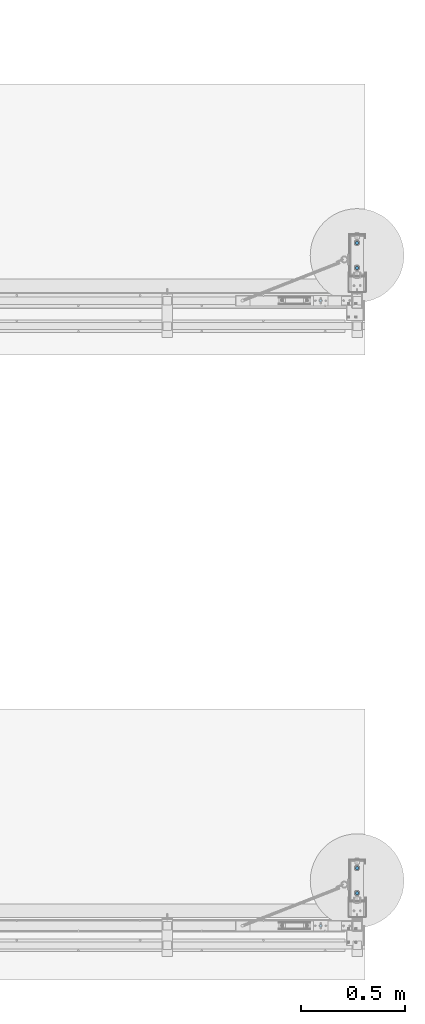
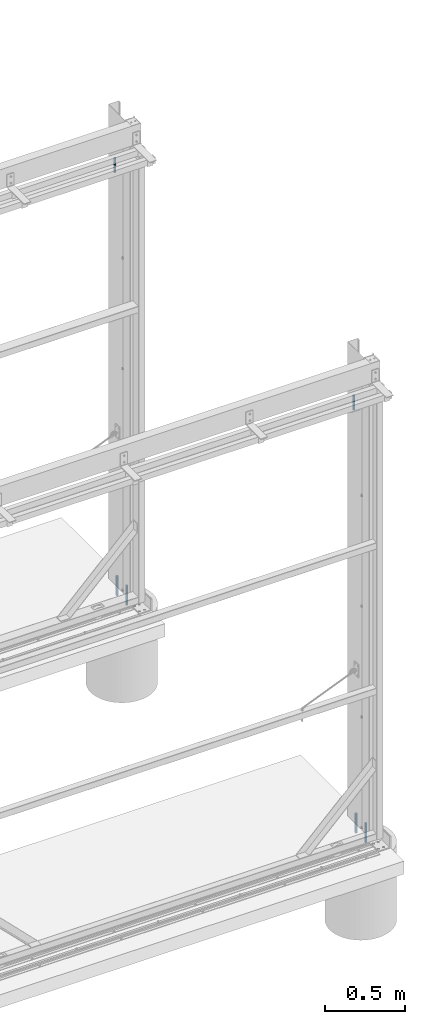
# One storey, part 6 of 91: 6 columns, 6 elements without a shape of their own.
"""IFC2X3 building model written with IfcOpenShell, lengths in millimetres."""

import ifcopenshell
import ifcopenshell.guid

model = None  # the IFC model being written
_history = None  # IfcOwnerHistory: only IFC2X3 demands one
_inside = {}  # id of a spatial element -> (the spatial element, [elements in it])
_under = {}  # id of a project, library or spatial element -> (it, [spatial elements below it])
_declared = {}  # id of a project -> (the project, [libraries it declares])
_typed = {}  # id of a type object -> (the type object, [elements of that type])
_made_of = {}  # id of a material, layer set ... -> (it, [elements and type objects made of it])


def new_model(schema):
    """Start an empty IFC model of exactly this schema.

    Asked for "IFC4X3", IfcOpenShell would pick the latest addendum, in which some entities
    have other attributes; the version numbers below select the first issue.
    IFC2X3 requires an IfcOwnerHistory on every rooted entity: one is made here for all.
    """
    global model, _history
    if schema == "IFC4X3":
        model = ifcopenshell.file(schema_version=(4, 3, 0, 0))
    else:
        model = ifcopenshell.file(schema=schema)
    _inside.clear()
    _under.clear()
    _declared.clear()
    _typed.clear()
    _made_of.clear()
    _history = None
    if model.schema == "IFC2X3":
        org = make("IfcOrganization", Name="unknown")
        user = make(
            "IfcPersonAndOrganization",
            ThePerson=make("IfcPerson", FamilyName="unknown"),
            TheOrganization=org,
        )
        app = make(
            "IfcApplication",
            ApplicationDeveloper=org,
            Version="unknown",
            ApplicationFullName="unknown",
            ApplicationIdentifier="unknown",
        )
        _history = make(
            "IfcOwnerHistory",
            OwningUser=user,
            OwningApplication=app,
            ChangeAction="ADDED",
            CreationDate=0,
        )
    return model


def make(cls, **values):
    """One entity of the class cls with the attributes given. An attribute that is None is left unset."""
    return model.create_entity(
        cls, **{name: value for name, value in values.items() if value is not None}
    )


def rooted(cls, **values):
    """An entity with a GlobalId (a new one), such as an element, a storey or a relation."""
    return make(cls, GlobalId=ifcopenshell.guid.new(), OwnerHistory=_history, **values)


def si_unit(unit_type, name, prefix=None):
    """IfcSIUnit, for example si_unit("LENGTHUNIT", "METRE", prefix="MILLI")."""
    return make("IfcSIUnit", UnitType=unit_type, Prefix=prefix, Name=name)


def assignment(units):
    """IfcUnitAssignment: the units of a project."""
    return None if units is None else make("IfcUnitAssignment", Units=units)


def point(xyz):
    """IfcCartesianPoint."""
    return None if xyz is None else make("IfcCartesianPoint", Coordinates=xyz)


def direction(xyz):
    """IfcDirection."""
    return None if xyz is None else make("IfcDirection", DirectionRatios=xyz)


def frame(location, z_axis=None, x_axis=None):
    """IfcAxis2Placement3D, a coordinate frame: its origin and axes. An axis left out is left unset."""
    return make(
        "IfcAxis2Placement3D",
        Location=point(location),
        Axis=direction(z_axis),
        RefDirection=direction(x_axis),
    )


def frame_2d(location, x_axis=None):
    """IfcAxis2Placement2D, a coordinate frame in the plane: its origin and x axis."""
    return make(
        "IfcAxis2Placement2D", Location=point(location), RefDirection=direction(x_axis)
    )


def origin_with_axes():
    """The frame at (0, 0, 0) with the z axis (0, 0, 1) and the x axis (1, 0, 0) written out."""
    return frame((0.0, 0.0, 0.0), z_axis=(0.0, 0.0, 1.0), x_axis=(1.0, 0.0, 0.0))


def origin_2d_with_axis():
    """The frame at (0, 0) in the plane with the x axis (1, 0) written out."""
    return frame_2d((0.0, 0.0), x_axis=(1.0, 0.0))


def place(relative_to, where):
    """IfcLocalPlacement: puts the frame where relative to a parent placement (None: the world)."""
    return make(
        "IfcLocalPlacement", PlacementRelTo=relative_to, RelativePlacement=where
    )


def context(
    kind, dimensions, precision=None, world=None, true_north=None, identifier=None
):
    """IfcGeometricRepresentationContext, for example the 3D "Model" context."""
    return make(
        "IfcGeometricRepresentationContext",
        ContextIdentifier=identifier,
        ContextType=kind,
        CoordinateSpaceDimension=dimensions,
        Precision=precision,
        WorldCoordinateSystem=world,
        TrueNorth=true_north,
    )


def subcontext(parent, identifier, kind, view, scale=None):
    """IfcGeometricRepresentationSubContext, for example "Body" below "Model"."""
    return make(
        "IfcGeometricRepresentationSubContext",
        ContextIdentifier=identifier,
        ContextType=kind,
        ParentContext=parent,
        TargetScale=scale,
        TargetView=view,
    )


def project(units=None, contexts=None):
    """IfcProject with its units and contexts."""
    return rooted(
        "IfcProject",
        Name="project",
        RepresentationContexts=contexts,
        UnitsInContext=assignment(units),
    )


def spatial(cls, under=None, at=None, **own):
    """A site, building, storey or space (cls), placed at a placement, below another one or the project."""
    s = rooted(cls, ObjectPlacement=at, **own)
    if under is not None:
        _under.setdefault(under.id(), (under, []))[1].append(s)
    return s


def profile(cls, at=None, kind="AREA", **sizes):
    """A parametric profile (cls). Its sizes go by their IFC names, for example OverallWidth=200.0."""
    return make(cls, ProfileType=kind, Position=at, **sizes)


def circle(**sizes):
    """IfcCircleProfileDef."""
    return profile("IfcCircleProfileDef", **sizes)


def extrude(swept, where, along, depth):
    """IfcExtrudedAreaSolid: the profile swept, set in the frame where, extruded along a direction by depth."""
    return make(
        "IfcExtrudedAreaSolid",
        SweptArea=swept,
        Position=where,
        ExtrudedDirection=direction(along),
        Depth=depth,
    )


def boolean(op, a, b):
    """IfcBooleanResult of two solids."""
    return make("IfcBooleanResult", Operator=op, FirstOperand=a, SecondOperand=b)


def shape(context_of_items, identifier, shape_type, items):
    """IfcShapeRepresentation: the items that make up one representation, for example the "Body"."""
    return make(
        "IfcShapeRepresentation",
        ContextOfItems=context_of_items,
        RepresentationIdentifier=identifier,
        RepresentationType=shape_type,
        Items=items,
    )


def material(Name=None, Category=None):
    """IfcMaterial."""
    return make("IfcMaterial", Name=Name, Category=Category)


def made_of(thing, what):
    """Note that an element or type object is made of a material, layer set ...; save() writes the relation."""
    if what is not None:
        _made_of.setdefault(what.id(), (what, []))[1].append(thing)
    return thing


def type_object(cls, material=None, **own):
    """A type object (cls), such as IfcWallType, which elements share."""
    return made_of(rooted(cls, **own), material)


def element(
    cls,
    number,
    at=None,
    inside=None,
    cuts=None,
    type_object=None,
    material=None,
    context=None,
    identifier="Body",
    shape_type=None,
    held_by="IfcProductDefinitionShape",
    body=None,
    shapes=None,
    **own,
):
    """One element of the class cls, such as IfcWall. Its Tag is "e" and its number.

    at: its placement. inside: the storey or other place that contains it. cuts: it is an
    opening in that element (IfcRelVoidsElement). A single representation is given by context,
    identifier, shape_type and body (its items); several are given by shapes. held_by: the class
    of the entity that holds the representations. save() writes the other relations.
    """
    e = rooted(cls, Tag="e%d" % number, ObjectPlacement=at, **own)
    if body is not None:
        shapes = [shape(context, identifier, shape_type, body)]
    if shapes is not None:
        e.Representation = make(held_by, Representations=shapes)
    if inside is not None:
        _inside.setdefault(inside.id(), (inside, []))[1].append(e)
    if cuts is not None:
        rooted(
            "IfcRelVoidsElement", RelatingBuildingElement=cuts, RelatedOpeningElement=e
        )
    if type_object is not None:
        _typed.setdefault(type_object.id(), (type_object, []))[1].append(e)
    return made_of(e, material)


def aggregate(whole, parts):
    """IfcRelAggregates: a whole, such as a stair, and the parts it consists of."""
    return rooted("IfcRelAggregates", RelatingObject=whole, RelatedObjects=parts)


def save(model, path):
    """Write the relations noted so far, then the file.

    IfcRelAggregates (storeys below a building ...), IfcRelContainedInSpatialStructure (elements
    in a storey), IfcRelDefinesByType, IfcRelAssociatesMaterial and IfcRelDeclares: one each for
    every whole, place, type object, material and project.
    """
    for whole, parts in _under.values():
        aggregate(whole, parts)
    for where, things in _inside.values():
        rooted(
            "IfcRelContainedInSpatialStructure",
            RelatedElements=things,
            RelatingStructure=where,
        )
    for kind, things in _typed.values():
        rooted("IfcRelDefinesByType", RelatedObjects=things, RelatingType=kind)
    for what, things in _made_of.values():
        rooted("IfcRelAssociatesMaterial", RelatedObjects=things, RelatingMaterial=what)
    for by, libraries in _declared.values():
        rooted("IfcRelDeclares", RelatingContext=by, RelatedDefinitions=libraries)
    model.write(path)


model = new_model("IFC2X3")

# Units and contexts
model_context = context("Model", 3, precision=1e-05, world=origin_with_axes())
body_context = subcontext(model_context, "Body", "Model", "MODEL_VIEW")
ifc_project = project(units=[si_unit("LENGTHUNIT", "METRE", prefix="MILLI"), si_unit("AREAUNIT", "SQUARE_METRE"), si_unit("VOLUMEUNIT", "CUBIC_METRE"), si_unit("MASSUNIT", "GRAM", prefix="KILO"), si_unit("TIMEUNIT", "SECOND"), si_unit("PLANEANGLEUNIT", "RADIAN"), si_unit("SOLIDANGLEUNIT", "STERADIAN"), si_unit("THERMODYNAMICTEMPERATUREUNIT", "DEGREE_CELSIUS"), si_unit("LUMINOUSINTENSITYUNIT", "LUMEN")], contexts=[model_context])

# Site, building, storey
site_placement = place(None, origin_with_axes())
site = spatial("IfcSite", under=ifc_project, at=site_placement, Name="Undefined", CompositionType="ELEMENT")
building_placement = place(site_placement, origin_with_axes())
building = spatial("IfcBuilding", under=site, at=building_placement, Name="Undefined", CompositionType="ELEMENT")
storey_placement = place(building_placement, origin_with_axes())
storey = spatial("IfcBuildingStorey", under=building, at=storey_placement, Name="Undefined", CompositionType="ELEMENT", Elevation=0.0)

# Assembly, column
assembly_1_placement = place(storey_placement, origin_with_axes())
assembly_1 = element("IfcElementAssembly", 1, at=assembly_1_placement, inside=storey, Name="ROD", AssemblyPlace="NOTDEFINED", PredefinedType="RIGID_FRAME")
ifc_material_1 = material(Name="STEEL/250")
column_type_1 = type_object("IfcColumnType", Name="D12", PredefinedType="NOTDEFINED")
column_1_placement = place(assembly_1_placement, frame((-107858.34, 87712.15, 3320.0), z_axis=(0.0, 0.0, 1.0), x_axis=(1.0, 0.0, 0.0)))
column_1 = element("IfcColumn", 2, at=column_1_placement, type_object=column_type_1, material=ifc_material_1, Name="ROD", ObjectType="D12", context=body_context, shape_type="CSG", body=[
    boolean("DIFFERENCE", extrude(circle(Radius=6.0, at=origin_2d_with_axis()), frame((0.0, 0.0, 110.0), z_axis=(0.0, 0.0, -1.0), x_axis=(0.0, 1.0, 0.0)), (0.0, 0.0, 1.0), 110.0), extrude(circle(Radius=3.5, at=origin_2d_with_axis()), frame((0.0, 15.0, 101.0), z_axis=(0.0, -1.0, 0.0), x_axis=(0.0, 0.0, -1.0)), (0.0, 0.0, 1.0), 30.0)),
])
aggregate(assembly_1, [column_1])

assembly_2_placement = place(storey_placement, origin_with_axes())
assembly_2 = element("IfcElementAssembly", 3, at=assembly_2_placement, inside=storey, Name="ROD", AssemblyPlace="NOTDEFINED", PredefinedType="RIGID_FRAME")
column_2_placement = place(assembly_2_placement, frame((-107858.34, 84712.15, 3320.0), z_axis=(0.0, 0.0, 1.0), x_axis=(1.0, 0.0, 0.0)))
column_2 = element("IfcColumn", 4, at=column_2_placement, type_object=column_type_1, material=ifc_material_1, Name="ROD", ObjectType="D12", context=body_context, shape_type="CSG", body=[
    boolean("DIFFERENCE", extrude(circle(Radius=6.0, at=origin_2d_with_axis()), frame((0.0, 0.0, 110.0), z_axis=(0.0, 0.0, -1.0), x_axis=(0.0, 1.0, 0.0)), (0.0, 0.0, 1.0), 110.0), extrude(circle(Radius=3.5, at=origin_2d_with_axis()), frame((0.0, 15.0, 101.0), z_axis=(0.0, -1.0, 0.0), x_axis=(0.0, 0.0, -1.0)), (0.0, 0.0, 1.0), 30.0)),
])
aggregate(assembly_2, [column_2])

assembly_3_placement = place(storey_placement, origin_with_axes())
assembly_3 = element("IfcElementAssembly", 5, at=assembly_3_placement, inside=storey, Name="THROUGH BOLTS", AssemblyPlace="NOTDEFINED", PredefinedType="RIGID_FRAME")
ifc_material_2 = material(Name="STEEL/300")
column_type_2 = type_object("IfcColumnType", Name="D16", PredefinedType="NOTDEFINED")
column_3_placement = place(assembly_3_placement, frame((-107683.34, 87868.65, -151.0), z_axis=(0.0, 0.0, 1.0), x_axis=(0.0, 1.0, 0.0)))
column_3 = element("IfcColumn", 6, at=column_3_placement, type_object=column_type_2, material=ifc_material_2, Name="THROUGH BOLTS", ObjectType="D16", context=body_context, shape_type="SweptSolid", body=[
    extrude(circle(Radius=8.0, at=origin_2d_with_axis()), frame((0.0, 0.0, 150.0), z_axis=(0.0, 0.0, -1.0), x_axis=(0.0, 1.0, 0.0)), (0.0, 0.0, 1.0), 150.0),
])
aggregate(assembly_3, [column_3])

assembly_4_placement = place(storey_placement, origin_with_axes())
assembly_4 = element("IfcElementAssembly", 7, at=assembly_4_placement, inside=storey, Name="THROUGH BOLTS", AssemblyPlace="NOTDEFINED", PredefinedType="RIGID_FRAME")
column_4_placement = place(assembly_4_placement, frame((-107683.34, 87988.65, -151.0), z_axis=(0.0, 0.0, 1.0), x_axis=(0.0, 1.0, 0.0)))
column_4 = element("IfcColumn", 8, at=column_4_placement, type_object=column_type_2, material=ifc_material_2, Name="THROUGH BOLTS", ObjectType="D16", context=body_context, shape_type="SweptSolid", body=[
    extrude(circle(Radius=8.0, at=origin_2d_with_axis()), frame((0.0, 0.0, 150.0), z_axis=(0.0, 0.0, -1.0), x_axis=(0.0, 1.0, 0.0)), (0.0, 0.0, 1.0), 150.0),
])
aggregate(assembly_4, [column_4])

assembly_5_placement = place(storey_placement, origin_with_axes())
assembly_5 = element("IfcElementAssembly", 9, at=assembly_5_placement, inside=storey, Name="THROUGH BOLTS", AssemblyPlace="NOTDEFINED", PredefinedType="RIGID_FRAME")
column_5_placement = place(assembly_5_placement, frame((-107683.34, 84868.65, -151.0), z_axis=(0.0, 0.0, 1.0), x_axis=(0.0, 1.0, 0.0)))
column_5 = element("IfcColumn", 10, at=column_5_placement, type_object=column_type_2, material=ifc_material_2, Name="THROUGH BOLTS", ObjectType="D16", context=body_context, shape_type="SweptSolid", body=[
    extrude(circle(Radius=8.0, at=origin_2d_with_axis()), frame((0.0, 0.0, 150.0), z_axis=(0.0, 0.0, -1.0), x_axis=(0.0, 1.0, 0.0)), (0.0, 0.0, 1.0), 150.0),
])
aggregate(assembly_5, [column_5])

assembly_6_placement = place(storey_placement, origin_with_axes())
assembly_6 = element("IfcElementAssembly", 11, at=assembly_6_placement, inside=storey, Name="THROUGH BOLTS", AssemblyPlace="NOTDEFINED", PredefinedType="RIGID_FRAME")
column_6_placement = place(assembly_6_placement, frame((-107683.34, 84988.65, -151.0), z_axis=(0.0, 0.0, 1.0), x_axis=(0.0, 1.0, 0.0)))
column_6 = element("IfcColumn", 12, at=column_6_placement, type_object=column_type_2, material=ifc_material_2, Name="THROUGH BOLTS", ObjectType="D16", context=body_context, shape_type="SweptSolid", body=[
    extrude(circle(Radius=8.0, at=origin_2d_with_axis()), frame((0.0, 0.0, 150.0), z_axis=(0.0, 0.0, -1.0), x_axis=(0.0, 1.0, 0.0)), (0.0, 0.0, 1.0), 150.0),
])
aggregate(assembly_6, [column_6])

save(model, "model.ifc")
